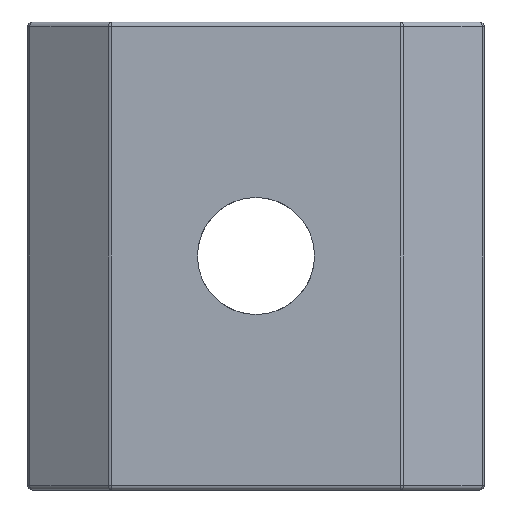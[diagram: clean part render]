
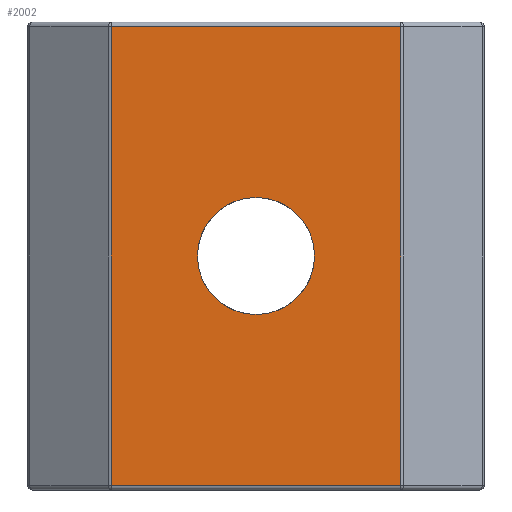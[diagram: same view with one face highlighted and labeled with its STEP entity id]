
A CAD part, front view. The second image highlights one B-rep face of the part: STEP entity #2002.
In plain terms, the highlighted planar face has unit normal (0, -1, 0).
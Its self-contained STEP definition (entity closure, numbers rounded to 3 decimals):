
#33 = EDGE_CURVE ( 'NONE', #146, #1886, #944, .T. ) ;
#34 = VECTOR ( 'NONE', #993, 1000. ) ;
#86 = CARTESIAN_POINT ( 'NONE',  ( 0., 0., 2.5 ) ) ;
#146 = VERTEX_POINT ( 'NONE', #1243 ) ;
#179 = PLANE ( 'NONE',  #1382 ) ;
#202 = CARTESIAN_POINT ( 'NONE',  ( -6.25, 0., 9.8 ) ) ;
#209 = DIRECTION ( 'NONE',  ( -1., 0., 0. ) ) ;
#231 = VECTOR ( 'NONE', #283, 1000. ) ;
#278 = CARTESIAN_POINT ( 'NONE',  ( 6.25, 0., -9.8 ) ) ;
#283 = DIRECTION ( 'NONE',  ( 0., 0., 1. ) ) ;
#291 = CARTESIAN_POINT ( 'NONE',  ( 6.186, 0., 10. ) ) ;
#393 = LINE ( 'NONE', #1001, #34 ) ;
#417 = EDGE_CURVE ( 'NONE', #1233, #1719, #585, .T. ) ;
#422 = AXIS2_PLACEMENT_3D ( 'NONE', #1888, #927, #1754 ) ;
#462 = DIRECTION ( 'NONE',  ( 1., 0., 0. ) ) ;
#544 = LINE ( 'NONE', #291, #231 ) ;
#546 = CIRCLE ( 'NONE', #422, 2.5 ) ;
#582 = VECTOR ( 'NONE', #462, 1000. ) ;
#585 = LINE ( 'NONE', #278, #582 ) ;
#605 = EDGE_CURVE ( 'NONE', #1886, #146, #546, .T. ) ;
#665 = CARTESIAN_POINT ( 'NONE',  ( 6.186, 0., -9.8 ) ) ;
#680 = CARTESIAN_POINT ( 'NONE',  ( 6.186, 0., 9.8 ) ) ;
#690 = DIRECTION ( 'NONE',  ( 0., 1., 0. ) ) ;
#821 = VERTEX_POINT ( 'NONE', #1119 ) ;
#927 = DIRECTION ( 'NONE',  ( 0., 1., 0. ) ) ;
#944 = CIRCLE ( 'NONE', #1584, 2.5 ) ;
#993 = DIRECTION ( 'NONE',  ( 0., 0., -1. ) ) ;
#1001 = CARTESIAN_POINT ( 'NONE',  ( -6.186, 0., 10. ) ) ;
#1068 = CARTESIAN_POINT ( 'NONE',  ( 0., 0., 0. ) ) ;
#1082 = VERTEX_POINT ( 'NONE', #680 ) ;
#1119 = CARTESIAN_POINT ( 'NONE',  ( -6.186, 0., 9.8 ) ) ;
#1199 = FACE_OUTER_BOUND ( 'NONE', #1479, .T. ) ;
#1233 = VERTEX_POINT ( 'NONE', #2000 ) ;
#1243 = CARTESIAN_POINT ( 'NONE',  ( 0., 0., -2.5 ) ) ;
#1244 = CARTESIAN_POINT ( 'NONE',  ( -6.25, 0., 10. ) ) ;
#1252 = DIRECTION ( 'NONE',  ( 0., 0., 1. ) ) ;
#1307 = ORIENTED_EDGE ( 'NONE', *, *, #1630, .T. ) ;
#1339 = LINE ( 'NONE', #202, #2089 ) ;
#1367 = ORIENTED_EDGE ( 'NONE', *, *, #2170, .T. ) ;
#1382 = AXIS2_PLACEMENT_3D ( 'NONE', #1244, #1855, #1252 ) ;
#1393 = ORIENTED_EDGE ( 'NONE', *, *, #1847, .T. ) ;
#1399 = DIRECTION ( 'NONE',  ( 0., 0., 1. ) ) ;
#1422 = ORIENTED_EDGE ( 'NONE', *, *, #605, .T. ) ;
#1452 = ORIENTED_EDGE ( 'NONE', *, *, #33, .T. ) ;
#1479 = EDGE_LOOP ( 'NONE', ( #1307, #2147, #1367, #1393 ) ) ;
#1507 = FACE_BOUND ( 'NONE', #2171, .T. ) ;
#1584 = AXIS2_PLACEMENT_3D ( 'NONE', #1068, #690, #1399 ) ;
#1630 = EDGE_CURVE ( 'NONE', #821, #1233, #393, .T. ) ;
#1719 = VERTEX_POINT ( 'NONE', #665 ) ;
#1754 = DIRECTION ( 'NONE',  ( 0., 0., 1. ) ) ;
#1847 = EDGE_CURVE ( 'NONE', #1082, #821, #1339, .T. ) ;
#1855 = DIRECTION ( 'NONE',  ( 0., 1., 0. ) ) ;
#1886 = VERTEX_POINT ( 'NONE', #86 ) ;
#1888 = CARTESIAN_POINT ( 'NONE',  ( 0., 0., 0. ) ) ;
#2000 = CARTESIAN_POINT ( 'NONE',  ( -6.186, 0., -9.8 ) ) ;
#2002 = ADVANCED_FACE ( 'NONE', ( #1199, #1507 ), #179, .F. ) ;
#2089 = VECTOR ( 'NONE', #209, 1000. ) ;
#2147 = ORIENTED_EDGE ( 'NONE', *, *, #417, .T. ) ;
#2170 = EDGE_CURVE ( 'NONE', #1719, #1082, #544, .T. ) ;
#2171 = EDGE_LOOP ( 'NONE', ( #1422, #1452 ) ) ;
